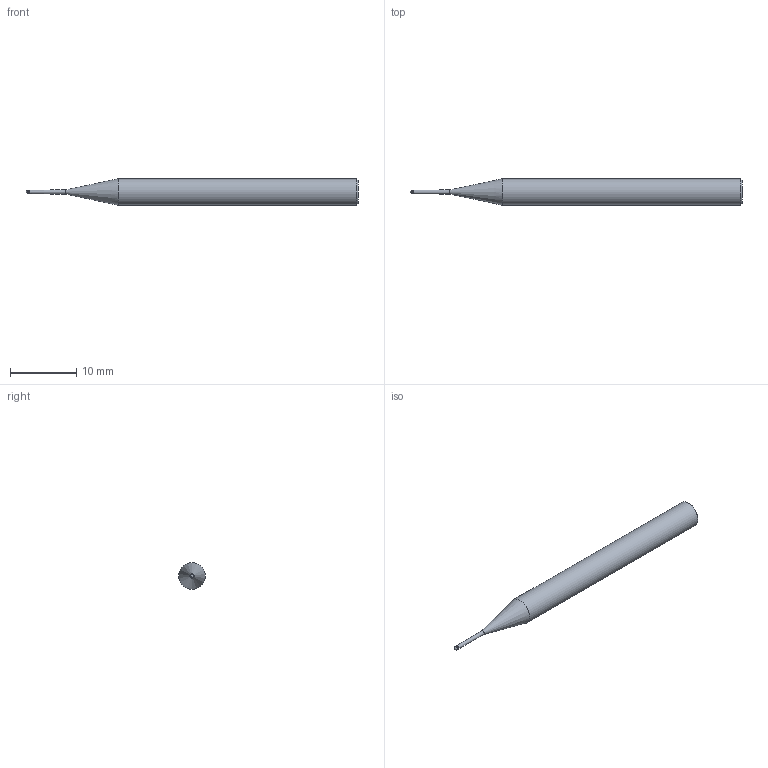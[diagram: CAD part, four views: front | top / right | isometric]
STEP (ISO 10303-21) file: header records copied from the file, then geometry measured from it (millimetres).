
FILE_DESCRIPTION(/* description */ (''),/* implementation_level */ '2;1');
FILE_NAME(/* name */ 'HGXPB2006-6-T0.4 0450.stp',/* time_stamp */ '2026-01-22T09:34:41+08:00',/* author */ (''),/* organization */ (''),/* preprocessor_version */ 'ST-DEVELOPER v16',/* originating_system */ 'SIEMENS PLM Software NX 10.0',/* authorisation */ '');
FILE_SCHEMA (('CONFIG_CONTROL_DESIGN'));
Length unit declared in the file: millimetre
Products named in the file (1): HGXPB2006-6-T0.4 0450_dxf
Bounding box: 50 x 4 x 4 mm (x, y, z)
Volume: 494.1 mm3; surface area: 534.7 mm2
Topology: 1 solids, 1 shells, 9 faces, 16 edges, 9 vertices
Faces by surface type: cylinder 3, cone 3, plane 2, bspline 1
Full cylindrical faces by diameter (mm): 0.56 x1, 0.6 x1, 4 x1
Entity records: 285 total; most frequent: CARTESIAN_POINT 54, DIRECTION 34, AXIS2_PLACEMENT_3D 17, FACE_BOUND 16, EDGE_LOOP 16, ORIENTED_EDGE 16, ADVANCED_FACE 9, VERTEX_POINT 9
